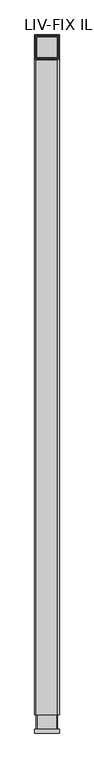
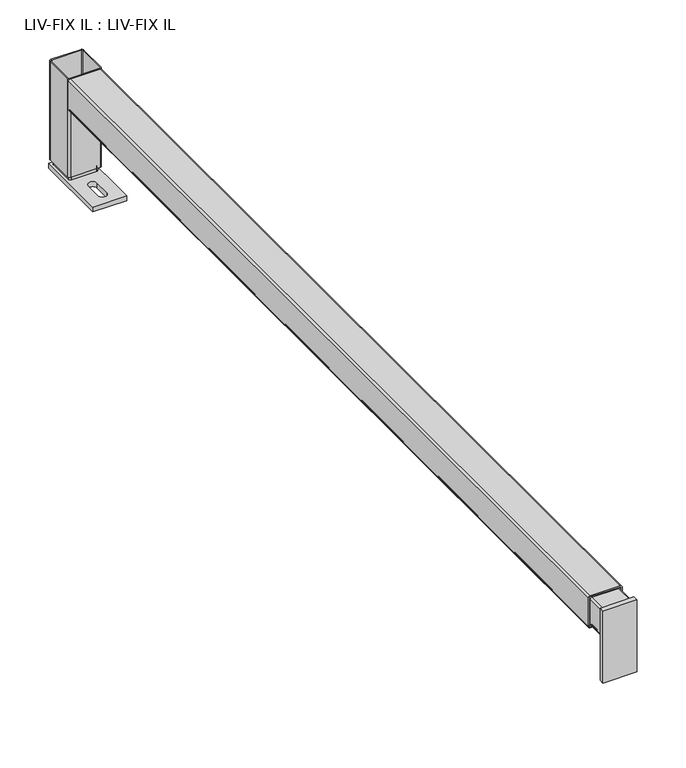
"""IFC4 building model written with IfcOpenShell, lengths in millimetres: flow terminal geometry, LIV-FIX IL : LIV-FIX IL."""

import ifcopenshell
import ifcopenshell.guid

model = None  # the IFC model being written
_history = None  # IfcOwnerHistory: only IFC2X3 demands one
_inside = {}  # id of a spatial element -> (the spatial element, [elements in it])
_under = {}  # id of a project, library or spatial element -> (it, [spatial elements below it])
_declared = {}  # id of a project -> (the project, [libraries it declares])
_typed = {}  # id of a type object -> (the type object, [elements of that type])
_made_of = {}  # id of a material, layer set ... -> (it, [elements and type objects made of it])


def new_model(schema):
    """Start an empty IFC model of exactly this schema.

    Asked for "IFC4X3", IfcOpenShell would pick the latest addendum, in which some entities
    have other attributes; the version numbers below select the first issue.
    IFC2X3 requires an IfcOwnerHistory on every rooted entity: one is made here for all.
    """
    global model, _history
    if schema == "IFC4X3":
        model = ifcopenshell.file(schema_version=(4, 3, 0, 0))
    else:
        model = ifcopenshell.file(schema=schema)
    _inside.clear()
    _under.clear()
    _declared.clear()
    _typed.clear()
    _made_of.clear()
    _history = None
    if model.schema == "IFC2X3":
        org = make("IfcOrganization", Name="unknown")
        user = make(
            "IfcPersonAndOrganization",
            ThePerson=make("IfcPerson", FamilyName="unknown"),
            TheOrganization=org,
        )
        app = make(
            "IfcApplication",
            ApplicationDeveloper=org,
            Version="unknown",
            ApplicationFullName="unknown",
            ApplicationIdentifier="unknown",
        )
        _history = make(
            "IfcOwnerHistory",
            OwningUser=user,
            OwningApplication=app,
            ChangeAction="ADDED",
            CreationDate=0,
        )
    return model


def make(cls, **values):
    """One entity of the class cls with the attributes given. An attribute that is None is left unset."""
    return model.create_entity(
        cls, **{name: value for name, value in values.items() if value is not None}
    )


def rooted(cls, **values):
    """An entity with a GlobalId (a new one), such as an element, a storey or a relation."""
    return make(cls, GlobalId=ifcopenshell.guid.new(), OwnerHistory=_history, **values)


def si_unit(unit_type, name, prefix=None):
    """IfcSIUnit, for example si_unit("LENGTHUNIT", "METRE", prefix="MILLI")."""
    return make("IfcSIUnit", UnitType=unit_type, Prefix=prefix, Name=name)


def assignment(units):
    """IfcUnitAssignment: the units of a project."""
    return None if units is None else make("IfcUnitAssignment", Units=units)


def point(xyz):
    """IfcCartesianPoint."""
    return None if xyz is None else make("IfcCartesianPoint", Coordinates=xyz)


def direction(xyz):
    """IfcDirection."""
    return None if xyz is None else make("IfcDirection", DirectionRatios=xyz)


def frame(location, z_axis=None, x_axis=None):
    """IfcAxis2Placement3D, a coordinate frame: its origin and axes. An axis left out is left unset."""
    return make(
        "IfcAxis2Placement3D",
        Location=point(location),
        Axis=direction(z_axis),
        RefDirection=direction(x_axis),
    )


def frame_2d(location, x_axis=None):
    """IfcAxis2Placement2D, a coordinate frame in the plane: its origin and x axis."""
    return make(
        "IfcAxis2Placement2D", Location=point(location), RefDirection=direction(x_axis)
    )


def origin():
    """The frame at (0, 0, 0) with its axes left unset."""
    return frame((0.0, 0.0, 0.0))


def origin_with_axes():
    """The frame at (0, 0, 0) with the z axis (0, 0, 1) and the x axis (1, 0, 0) written out."""
    return frame((0.0, 0.0, 0.0), z_axis=(0.0, 0.0, 1.0), x_axis=(1.0, 0.0, 0.0))


def place(relative_to, where):
    """IfcLocalPlacement: puts the frame where relative to a parent placement (None: the world)."""
    return make(
        "IfcLocalPlacement", PlacementRelTo=relative_to, RelativePlacement=where
    )


def context(
    kind, dimensions, precision=None, world=None, true_north=None, identifier=None
):
    """IfcGeometricRepresentationContext, for example the 3D "Model" context."""
    return make(
        "IfcGeometricRepresentationContext",
        ContextIdentifier=identifier,
        ContextType=kind,
        CoordinateSpaceDimension=dimensions,
        Precision=precision,
        WorldCoordinateSystem=world,
        TrueNorth=true_north,
    )


def project(units=None, contexts=None):
    """IfcProject with its units and contexts."""
    return rooted(
        "IfcProject",
        Name="project",
        RepresentationContexts=contexts,
        UnitsInContext=assignment(units),
    )


def spatial(cls, under=None, at=None, **own):
    """A site, building, storey or space (cls), placed at a placement, below another one or the project."""
    s = rooted(cls, ObjectPlacement=at, **own)
    if under is not None:
        _under.setdefault(under.id(), (under, []))[1].append(s)
    return s


def polyline(points):
    """IfcPolyline through the points."""
    return make("IfcPolyline", Points=[point(p) for p in points])


def circle_curve(where, radius):
    """IfcCircle in the frame where."""
    return make("IfcCircle", Position=where, Radius=radius)


def trimmed(basis, trim1, trim2, sense, master):
    """IfcTrimmedCurve: the piece of a basis curve between two trims."""
    return make(
        "IfcTrimmedCurve",
        BasisCurve=basis,
        Trim1=trim1,
        Trim2=trim2,
        SenseAgreement=sense,
        MasterRepresentation=master,
    )


def segment(curve, same_sense, transition):
    """IfcCompositeCurveSegment."""
    return make(
        "IfcCompositeCurveSegment",
        Transition=transition,
        SameSense=same_sense,
        ParentCurve=curve,
    )


def composite_curve(segments, self_intersect=None):
    """IfcCompositeCurve: segments joined end to end."""
    return make("IfcCompositeCurve", Segments=segments, SelfIntersect=self_intersect)


def outline(outer, holes=None, kind="AREA"):
    """IfcArbitraryClosedProfileDef: a profile drawn as a closed curve; with holes, ...WithVoids."""
    if holes is None:
        return make("IfcArbitraryClosedProfileDef", ProfileType=kind, OuterCurve=outer)
    return make(
        "IfcArbitraryProfileDefWithVoids",
        ProfileType=kind,
        OuterCurve=outer,
        InnerCurves=holes,
    )


def extrude(swept, where, along, depth):
    """IfcExtrudedAreaSolid: the profile swept, set in the frame where, extruded along a direction by depth."""
    return make(
        "IfcExtrudedAreaSolid",
        SweptArea=swept,
        Position=where,
        ExtrudedDirection=direction(along),
        Depth=depth,
    )


def shape(context_of_items, identifier, shape_type, items):
    """IfcShapeRepresentation: the items that make up one representation, for example the "Body"."""
    return make(
        "IfcShapeRepresentation",
        ContextOfItems=context_of_items,
        RepresentationIdentifier=identifier,
        RepresentationType=shape_type,
        Items=items,
    )


def source(mapping_origin, context_of_items, identifier, shape_type, items):
    """IfcRepresentationMap: a shape defined once, which mapped items show again and again."""
    return make(
        "IfcRepresentationMap",
        MappingOrigin=mapping_origin,
        MappedRepresentation=shape(context_of_items, identifier, shape_type, items),
    )


def transform(
    local_origin,
    x_axis=None,
    y_axis=None,
    z_axis=None,
    scale=None,
    scale2=None,
    scale3=None,
    uniform=True,
):
    """IfcCartesianTransformationOperator3D, or its non-uniform kind. x_axis, y_axis, z_axis: its Axis1, 2, 3."""
    if uniform:
        return make(
            "IfcCartesianTransformationOperator3D",
            Axis1=direction(x_axis),
            Axis2=direction(y_axis),
            LocalOrigin=point(local_origin),
            Scale=scale,
            Axis3=direction(z_axis),
        )
    return make(
        "IfcCartesianTransformationOperator3DnonUniform",
        Axis1=direction(x_axis),
        Axis2=direction(y_axis),
        LocalOrigin=point(local_origin),
        Scale=scale,
        Axis3=direction(z_axis),
        Scale2=scale2,
        Scale3=scale3,
    )


def mapped(mapping_source, mapping_target):
    """IfcMappedItem: shows the shape of a source again, moved by a transform."""
    return make(
        "IfcMappedItem", MappingSource=mapping_source, MappingTarget=mapping_target
    )


def made_of(thing, what):
    """Note that an element or type object is made of a material, layer set ...; save() writes the relation."""
    if what is not None:
        _made_of.setdefault(what.id(), (what, []))[1].append(thing)
    return thing


def element(
    cls,
    number,
    at=None,
    inside=None,
    cuts=None,
    type_object=None,
    material=None,
    context=None,
    identifier="Body",
    shape_type=None,
    held_by="IfcProductDefinitionShape",
    body=None,
    shapes=None,
    **own,
):
    """One element of the class cls, such as IfcWall. Its Tag is "e" and its number.

    at: its placement. inside: the storey or other place that contains it. cuts: it is an
    opening in that element (IfcRelVoidsElement). A single representation is given by context,
    identifier, shape_type and body (its items); several are given by shapes. held_by: the class
    of the entity that holds the representations. save() writes the other relations.
    """
    e = rooted(cls, Tag="e%d" % number, ObjectPlacement=at, **own)
    if body is not None:
        shapes = [shape(context, identifier, shape_type, body)]
    if shapes is not None:
        e.Representation = make(held_by, Representations=shapes)
    if inside is not None:
        _inside.setdefault(inside.id(), (inside, []))[1].append(e)
    if cuts is not None:
        rooted(
            "IfcRelVoidsElement", RelatingBuildingElement=cuts, RelatedOpeningElement=e
        )
    if type_object is not None:
        _typed.setdefault(type_object.id(), (type_object, []))[1].append(e)
    return made_of(e, material)


def aggregate(whole, parts):
    """IfcRelAggregates: a whole, such as a stair, and the parts it consists of."""
    return rooted("IfcRelAggregates", RelatingObject=whole, RelatedObjects=parts)


def save(model, path):
    """Write the relations noted so far, then the file.

    IfcRelAggregates (storeys below a building ...), IfcRelContainedInSpatialStructure (elements
    in a storey), IfcRelDefinesByType, IfcRelAssociatesMaterial and IfcRelDeclares: one each for
    every whole, place, type object, material and project.
    """
    for whole, parts in _under.values():
        aggregate(whole, parts)
    for where, things in _inside.values():
        rooted(
            "IfcRelContainedInSpatialStructure",
            RelatedElements=things,
            RelatingStructure=where,
        )
    for kind, things in _typed.values():
        rooted("IfcRelDefinesByType", RelatedObjects=things, RelatingType=kind)
    for what, things in _made_of.values():
        rooted("IfcRelAssociatesMaterial", RelatedObjects=things, RelatingMaterial=what)
    for by, libraries in _declared.values():
        rooted("IfcRelDeclares", RelatingContext=by, RelatedDefinitions=libraries)
    model.write(path)


def liv_fix_il_liv_fix_il_43ed633e(model_context):
    return source(origin(), model_context, "Body", "SweptSolid", [
        extrude(outline(polyline([(20.0000011, 6.0), (20.0000011, 0.0), (-20.0000011, 0.0), (-20.0000011, 6.0), (20.0000011, 6.0)])), frame((0.0, 0.0, 45.0000013), z_axis=(0.0, 0.0, 1.0), x_axis=(1.0, 0.0, 0.0)), (0.0, 0.0, 1.0), 89.9999987),
        extrude(outline(composite_curve([segment(polyline([(132.4999974, 15.4999589), (132.4999974, -15.4999589)]), True, "CONTINUOUS"), segment(trimmed(circle_curve(frame_2d((130.4999571, -15.4999589)), 2.0000403), [point((132.4999974, -15.4999589))], [point((130.4999571, -17.4999992))], False, "CARTESIAN"), True, "CONTINUOUS"), segment(polyline([(130.4999571, -17.4999992), (99.5000392, -17.4999992)]), True, "CONTINUOUS"), segment(trimmed(circle_curve(frame_2d((99.5000392, -15.4999589)), 2.0000403), [point((99.5000392, -17.4999992))], [point((97.4999989, -15.4999589))], False, "CARTESIAN"), True, "CONTINUOUS"), segment(polyline([(97.4999989, -15.4999589), (97.4999989, 15.4999589)]), True, "CONTINUOUS"), segment(trimmed(circle_curve(frame_2d((99.5000392, 15.4999589)), 2.0000403), [point((97.4999989, 15.4999589))], [point((99.5000392, 17.4999992))], False, "CARTESIAN"), True, "CONTINUOUS"), segment(polyline([(99.5000392, 17.4999992), (130.4999571, 17.4999992)]), True, "CONTINUOUS"), segment(trimmed(circle_curve(frame_2d((130.4999571, 15.4999589)), 2.0000403), [point((130.4999571, 17.4999992))], [point((132.4999974, 15.4999589))], False, "CARTESIAN"), True, "CONTINUOUS")], self_intersect=False), holes=[composite_curve([segment(polyline([(130.9999974, -15.4999589), (130.9999974, 15.4999589)]), True, "CONTINUOUS"), segment(trimmed(circle_curve(frame_2d((130.4999571, 15.4999589)), 0.5000403), [point((130.9999974, 15.4999589))], [point((130.4999571, 15.9999992))], True, "CARTESIAN"), True, "CONTINUOUS"), segment(polyline([(130.4999571, 15.9999992), (99.5000392, 15.9999992)]), True, "CONTINUOUS"), segment(trimmed(circle_curve(frame_2d((99.5000392, 15.4999589)), 0.5000403), [point((99.5000392, 15.9999992))], [point((98.9999989, 15.4999589))], True, "CARTESIAN"), True, "CONTINUOUS"), segment(polyline([(98.9999989, 15.4999589), (98.9999989, -15.4999589)]), True, "CONTINUOUS"), segment(trimmed(circle_curve(frame_2d((99.5000392, -15.4999589)), 0.5000403), [point((98.9999989, -15.4999589))], [point((99.5000392, -15.9999992))], True, "CARTESIAN"), True, "CONTINUOUS"), segment(polyline([(99.5000392, -15.9999992), (130.4999571, -15.9999992)]), True, "CONTINUOUS"), segment(trimmed(circle_curve(frame_2d((130.4999571, -15.4999589)), 0.5000403), [point((130.4999571, -15.9999992))], [point((130.9999974, -15.4999589))], True, "CARTESIAN"), True, "CONTINUOUS")], self_intersect=False)]), frame((0.0, 6.0, 0.0), z_axis=(0.0, 1.0, 0.0), x_axis=(0.0, 0.0, 1.0)), (0.0, 0.0, 1.0), 23.9999993),
        extrude(outline(polyline([(20.0000011, 1134.9999796), (20.0000011, 1045.0000225), (-20.0000011, 1045.0000225), (-20.0000011, 1134.9999796), (20.0000011, 1134.9999796)]), holes=[composite_curve([segment(trimmed(circle_curve(frame_2d((-1.1e-06, 1059.999979)), 5.0000003), [point((-5.0000014, 1059.999979))], [point((4.9999991, 1059.999979))], True, "CARTESIAN"), True, "CONTINUOUS"), segment(polyline([(4.9999991, 1059.999979), (4.9999991, 1079.9999937)]), True, "CONTINUOUS"), segment(trimmed(circle_curve(frame_2d((-1.1e-06, 1079.9999937)), 5.0000003), [point((4.9999991, 1079.9999937))], [point((-5.0000014, 1079.9999937))], True, "CARTESIAN"), True, "CONTINUOUS"), segment(polyline([(-5.0000014, 1079.9999937), (-5.0000014, 1059.999979)]), True, "CONTINUOUS")], self_intersect=False)]), origin_with_axes(), (0.0, 0.0, 1.0), 6.0),
        extrude(outline(composite_curve([segment(trimmed(circle_curve(frame_2d((14.9999724, 1129.99996)), 2.5000268), [point((14.9999724, 1132.4999868))], [point((17.4999992, 1129.99996))], False, "CARTESIAN"), True, "CONTINUOUS"), segment(polyline([(17.4999992, 1129.99996), (17.4999992, 1100.0000425)]), True, "CONTINUOUS"), segment(trimmed(circle_curve(frame_2d((14.9999724, 1100.0000425)), 2.5000268), [point((17.4999992, 1100.0000425))], [point((14.9999724, 1097.5000156))], False, "CARTESIAN"), True, "CONTINUOUS"), segment(polyline([(14.9999724, 1097.5000156), (-14.9999724, 1097.5000156)]), True, "CONTINUOUS"), segment(trimmed(circle_curve(frame_2d((-14.9999724, 1100.0000425)), 2.5000268), [point((-14.9999724, 1097.5000156))], [point((-17.4999992, 1100.0000425))], False, "CARTESIAN"), True, "CONTINUOUS"), segment(polyline([(-17.4999992, 1100.0000425), (-17.4999992, 1129.99996)]), True, "CONTINUOUS"), segment(trimmed(circle_curve(frame_2d((-14.9999724, 1129.99996)), 2.5000268), [point((-17.4999992, 1129.99996))], [point((-14.9999724, 1132.4999868))], False, "CARTESIAN"), True, "CONTINUOUS"), segment(polyline([(-14.9999724, 1132.4999868), (14.9999724, 1132.4999868)]), True, "CONTINUOUS")], self_intersect=False), holes=[composite_curve([segment(trimmed(circle_curve(frame_2d((-14.9999724, 1129.99996)), 1.0000268), [point((-14.9999724, 1130.9999868))], [point((-15.9999992, 1129.99996))], True, "CARTESIAN"), True, "CONTINUOUS"), segment(polyline([(-15.9999992, 1129.99996), (-15.9999992, 1100.0000425)]), True, "CONTINUOUS"), segment(trimmed(circle_curve(frame_2d((-14.9999724, 1100.0000425)), 1.0000268), [point((-15.9999992, 1100.0000425))], [point((-14.9999724, 1099.0000156))], True, "CARTESIAN"), True, "CONTINUOUS"), segment(polyline([(-14.9999724, 1099.0000156), (14.9999724, 1099.0000156)]), True, "CONTINUOUS"), segment(trimmed(circle_curve(frame_2d((14.9999724, 1100.0000425)), 1.0000268), [point((14.9999724, 1099.0000156))], [point((15.9999992, 1100.0000425))], True, "CARTESIAN"), True, "CONTINUOUS"), segment(polyline([(15.9999992, 1100.0000425), (15.9999992, 1129.99996)]), True, "CONTINUOUS"), segment(trimmed(circle_curve(frame_2d((14.9999724, 1129.99996)), 1.0000268), [point((15.9999992, 1129.99996))], [point((14.9999724, 1130.9999868))], True, "CARTESIAN"), True, "CONTINUOUS"), segment(polyline([(14.9999724, 1130.9999868), (-14.9999724, 1130.9999868)]), True, "CONTINUOUS")], self_intersect=False)]), frame((0.0, 0.0, 6.0), z_axis=(0.0, 0.0, 1.0), x_axis=(1.0, 0.0, 0.0)), (0.0, 0.0, 1.0), 6.0),
        extrude(outline(composite_curve([segment(trimmed(circle_curve(frame_2d((17.5000083, 1132.4999868)), 2.4999928), [point((17.5000083, 1134.9999796))], [point((20.0000011, 1132.4999868))], False, "CARTESIAN"), True, "CONTINUOUS"), segment(polyline([(20.0000011, 1132.4999868), (20.0000011, 1097.5000156)]), True, "CONTINUOUS"), segment(trimmed(circle_curve(frame_2d((17.5000083, 1097.5000156)), 2.4999928), [point((20.0000011, 1097.5000156))], [point((17.5000083, 1095.0000229))], False, "CARTESIAN"), True, "CONTINUOUS"), segment(polyline([(17.5000083, 1095.0000229), (-17.5000083, 1095.0000229)]), True, "CONTINUOUS"), segment(trimmed(circle_curve(frame_2d((-17.5000083, 1097.5000156)), 2.4999928), [point((-17.5000083, 1095.0000229))], [point((-20.0000011, 1097.5000156))], False, "CARTESIAN"), True, "CONTINUOUS"), segment(polyline([(-20.0000011, 1097.5000156), (-20.0000011, 1132.4999868)]), True, "CONTINUOUS"), segment(trimmed(circle_curve(frame_2d((-17.5000083, 1132.4999868)), 2.4999928), [point((-20.0000011, 1132.4999868))], [point((-17.5000083, 1134.9999796))], False, "CARTESIAN"), True, "CONTINUOUS"), segment(polyline([(-17.5000083, 1134.9999796), (17.5000083, 1134.9999796)]), True, "CONTINUOUS")], self_intersect=False), holes=[composite_curve([segment(polyline([(-18.5000011, 1132.4999868), (-18.5000011, 1097.5000156)]), True, "CONTINUOUS"), segment(trimmed(circle_curve(frame_2d((-17.5000083, 1097.5000156)), 0.9999928), [point((-18.5000011, 1097.5000156))], [point((-17.5000083, 1096.5000229))], True, "CARTESIAN"), True, "CONTINUOUS"), segment(polyline([(-17.5000083, 1096.5000229), (17.5000083, 1096.5000229)]), True, "CONTINUOUS"), segment(trimmed(circle_curve(frame_2d((17.5000083, 1097.5000156)), 0.9999928), [point((17.5000083, 1096.5000229))], [point((18.5000011, 1097.5000156))], True, "CARTESIAN"), True, "CONTINUOUS"), segment(polyline([(18.5000011, 1097.5000156), (18.5000011, 1132.4999868)]), True, "CONTINUOUS"), segment(trimmed(circle_curve(frame_2d((17.5000083, 1132.4999868)), 0.9999928), [point((18.5000011, 1132.4999868))], [point((17.5000083, 1133.4999796))], True, "CARTESIAN"), True, "CONTINUOUS"), segment(polyline([(17.5000083, 1133.4999796), (-17.5000083, 1133.4999796)]), True, "CONTINUOUS"), segment(trimmed(circle_curve(frame_2d((-17.5000083, 1132.4999868)), 0.9999928), [point((-17.5000083, 1133.4999796))], [point((-18.5000011, 1132.4999868))], True, "CARTESIAN"), True, "CONTINUOUS")], self_intersect=False)]), frame((0.0, 0.0, 12.0), z_axis=(0.0, 0.0, 1.0), x_axis=(1.0, 0.0, 0.0)), (0.0, 0.0, 1.0), 123.0),
        extrude(outline(composite_curve([segment(polyline([(132.4999982, -20.0000011), (97.5380053, -20.0000011)]), True, "CONTINUOUS"), segment(trimmed(circle_curve(frame_2d((97.5380053, -17.4999992)), 2.5000018), [point((97.5380053, -20.0000011))], [point((95.0380035, -17.4999992))], False, "CARTESIAN"), True, "CONTINUOUS"), segment(polyline([(95.0380035, -17.4999992), (95.0380035, 17.4999992)]), True, "CONTINUOUS"), segment(trimmed(circle_curve(frame_2d((97.5380053, 17.4999992)), 2.5000018), [point((95.0380035, 17.4999992))], [point((97.5380053, 20.0000011))], False, "CARTESIAN"), True, "CONTINUOUS"), segment(polyline([(97.5380053, 20.0000011), (132.4999982, 20.0000011)]), True, "CONTINUOUS"), segment(trimmed(circle_curve(frame_2d((132.4999982, 17.4999992)), 2.5000018), [point((132.4999982, 20.0000011))], [point((135.0, 17.4999992))], False, "CARTESIAN"), True, "CONTINUOUS"), segment(polyline([(135.0, 17.4999992), (135.0, -17.4999992)]), True, "CONTINUOUS"), segment(trimmed(circle_curve(frame_2d((132.4999982, -17.4999992)), 2.5000018), [point((135.0, -17.4999992))], [point((132.4999982, -20.0000011))], False, "CARTESIAN"), True, "CONTINUOUS")], self_intersect=False), holes=[composite_curve([segment(polyline([(133.5, -17.4999992), (133.5, 17.4999992)]), True, "CONTINUOUS"), segment(trimmed(circle_curve(frame_2d((132.4999982, 17.4999992)), 1.0000018), [point((133.5, 17.4999992))], [point((132.4999982, 18.5000011))], True, "CARTESIAN"), True, "CONTINUOUS"), segment(polyline([(132.4999982, 18.5000011), (97.5380053, 18.5000011)]), True, "CONTINUOUS"), segment(trimmed(circle_curve(frame_2d((97.5380053, 17.4999992)), 1.0000018), [point((97.5380053, 18.5000011))], [point((96.5380035, 17.4999992))], True, "CARTESIAN"), True, "CONTINUOUS"), segment(polyline([(96.5380035, 17.4999992), (96.5380035, -17.4999992)]), True, "CONTINUOUS"), segment(trimmed(circle_curve(frame_2d((97.5380053, -17.4999992)), 1.0000018), [point((96.5380035, -17.4999992))], [point((97.5380053, -18.5000011))], True, "CARTESIAN"), True, "CONTINUOUS"), segment(polyline([(97.5380053, -18.5000011), (132.4999982, -18.5000011)]), True, "CONTINUOUS"), segment(trimmed(circle_curve(frame_2d((132.4999982, -17.4999992)), 1.0000018), [point((132.4999982, -18.5000011))], [point((133.5, -17.4999992))], True, "CARTESIAN"), True, "CONTINUOUS")], self_intersect=False)]), frame((0.0, 29.9999993, 0.0), z_axis=(0.0, 1.0, 0.0), x_axis=(0.0, 0.0, 1.0)), (0.0, 0.0, 1.0), 1065.0000236),
    ])


if __name__ == "__main__":
    model = new_model("IFC4")
    model_context = context("Model", 3, world=origin())
    ifc_project = project(units=[si_unit("LENGTHUNIT", "METRE", prefix="MILLI")], contexts=[model_context])
    site = spatial("IfcSite", under=ifc_project)
    building = spatial("IfcBuilding", under=site)
    placement = place(None, origin())
    liv_fix_il_liv_fix_il_shape = liv_fix_il_liv_fix_il_43ed633e(model_context)
    element("IfcFlowTerminal", 1, ObjectType="LIV-FIX IL : LIV-FIX IL", at=placement, inside=building, context=model_context, shape_type="MappedRepresentation", body=[
        mapped(liv_fix_il_liv_fix_il_shape, transform((0.0, 0.0, 0.0), x_axis=(1.0, 0.0, 0.0), y_axis=(0.0, 1.0, 0.0), z_axis=(0.0, 0.0, 1.0))),
    ])
    save(model, "model.ifc")
